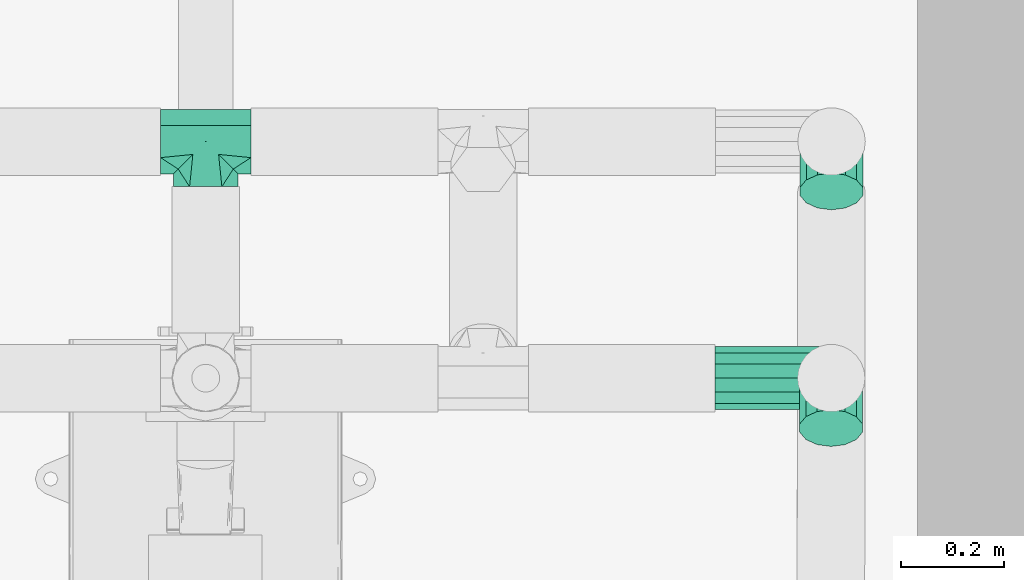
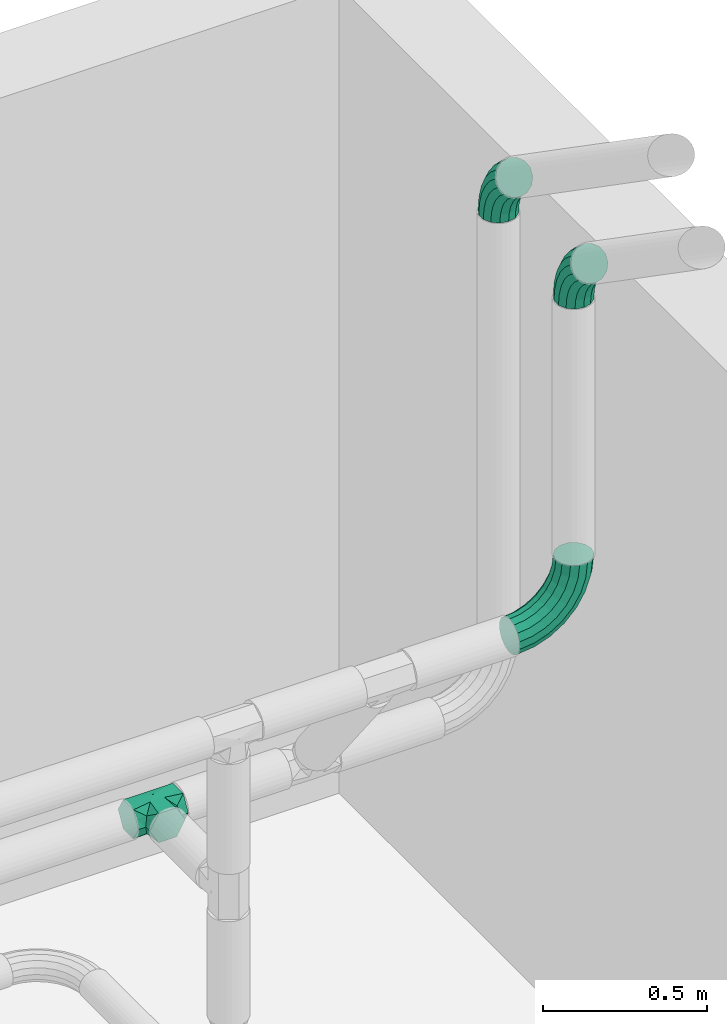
# One storey, part 10 of 12: 4 flow fittings.
"""IFC2X3 building model written with IfcOpenShell, lengths in millimetres."""

from ifc_helpers import new_model, entity, si_unit, converted_unit, direction, frame, origin, place, context, subcontext, project, spatial, faceted_brep, source, transform, mapped, material, type_object, type_shapes, element, save


model = new_model("IFC2X3")

# Units and contexts
model_context = context("Model", 3, precision=0.01, world=origin(), true_north=direction((6.123031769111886e-17, 1.0)))
body_context = subcontext(model_context, "Body", "Model", "MODEL_VIEW")
ifc_project = project(units=[si_unit("LENGTHUNIT", "METRE", prefix="MILLI"), converted_unit("PLANEANGLEUNIT", "DEGREE", entity("IfcPlaneAngleMeasure", 0.017453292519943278), si_unit("PLANEANGLEUNIT", "RADIAN"), dimensions=[0, 0, 0, 0, 0, 0, 0]), si_unit("AREAUNIT", "SQUARE_METRE")], contexts=[model_context])

# Site, building, storey
site_placement = place(None, frame((7776.576483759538, 118.3519876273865, 0.0)))
site = spatial("IfcSite", under=ifc_project, at=site_placement, Name="Default", CompositionType="ELEMENT")
building_placement = place(site_placement, origin())
building = spatial("IfcBuilding", under=site, at=building_placement, Name="Bygning (endres i Project Information)", CompositionType="ELEMENT")
storey_placement = place(building_placement, frame((0.0, 0.0, 11000.0)))
storey = spatial("IfcBuildingStorey", under=building, at=storey_placement, Name="Plan U2 - Arbeid", CompositionType="ELEMENT", Elevation=10999.999999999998)

# Flow fittings
ifc_material_1 = material(Name="DF_Material1")
pipe_fitting_type_1 = type_object("IfcPipeFittingType", Name="VA_prosess_rustfritt_vinklet_innsveising:VA_prosess_rustfritt_vinklet_innsveising", PredefinedType="NOTDEFINED", material=ifc_material_1)
shared_shape_1 = source(origin(), body_context, "Body", "Brep", [
    faceted_brep([(87.56401987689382, 50.78540715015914, -20.398523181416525), (87.56401987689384, 62.56250000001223, 0.0), (87.5640198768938, 50.7854066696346, 20.39852401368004), (87.56401987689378, 31.281250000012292, 54.1807143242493), (87.56401987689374, 0.0, 54.180714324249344), (87.56401987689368, -31.28124999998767, 54.180714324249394), (87.56401987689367, -46.92187499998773, 27.090357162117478), (87.56401987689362, -62.562499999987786, 0.0), (87.56401987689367, -46.92187499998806, -27.09035716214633), (87.56401987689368, -31.281249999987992, -54.18071432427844), (87.56401987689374, 0.0, -54.18071432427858), (87.56401987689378, 31.28125000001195, -54.18071432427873), (-87.56249999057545, 31.281250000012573, 54.1807143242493), (-87.56249999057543, 46.92187500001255, 27.090357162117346), (-87.56249999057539, 62.56250000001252, 0.0), (-87.56249999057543, 46.921875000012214, -27.09035716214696), (-87.56249999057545, 31.281250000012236, -54.18071432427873), (-87.56249999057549, 0.0, -54.18071432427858), (-87.56249999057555, -31.281249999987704, -54.18071432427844), (-87.56249999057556, -46.921874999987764, -27.09035716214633), (-87.5624999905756, -62.562499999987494, 0.0), (-87.56249999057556, -46.921874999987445, 27.090357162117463), (-87.56249999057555, -31.28124999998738, 54.180714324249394), (-87.56249999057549, 0.0, 54.180714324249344), (-62.56141407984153, -62.56249999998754, 0.0), (62.56358593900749, -62.56249999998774, 0.0), (-53.376592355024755, -53.3775188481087, -32.632911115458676), (53.37831310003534, -53.37738659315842, -32.633127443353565), (-24.96266408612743, -24.963097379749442, -57.36645514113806), (0.0, 0.0, -62.56250000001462), (24.96338614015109, -24.962952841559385, -57.366518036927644), (-24.962664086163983, -24.963097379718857, 57.36645514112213), (0.0, 0.0, 62.56249999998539), (53.37831310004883, -53.377386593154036, 32.633127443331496), (24.96338614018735, -24.962952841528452, 57.36651803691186), (-53.376592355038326, -53.3775188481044, 32.63291111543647), (0.0015198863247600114, -87.56358592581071, -54.18071432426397), (31.28276988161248, -87.56304296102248, -54.18071432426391), (46.92339487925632, -87.56277147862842, -27.090357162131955), (62.56401987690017, -87.5624999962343, 0.0), (46.923394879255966, -87.56277147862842, 27.09035716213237), (31.28276988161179, -87.56304296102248, 54.18071432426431), (0.00151988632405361, -87.56358592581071, 54.18071432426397), (-31.27973010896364, -87.56412889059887, 54.180714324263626), (-46.92035510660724, -87.56440037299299, 27.090357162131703), (-62.56098010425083, -87.56467185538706, 0.0), (-46.92035510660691, -87.56440037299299, -27.090357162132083), (-31.279730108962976, -87.56412889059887, -54.18071432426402)], [[[0, 1, 2, 3, 4, 5, 6, 7, 8, 9, 10, 11]], [[12, 13, 14, 15, 16, 17, 18, 19, 20, 21, 22, 23]], [[20, 19, 24]], [[25, 8, 7]], [[26, 19, 18]], [[11, 16, 15, 14, 1, 0]], [[25, 27, 8]], [[28, 17, 29]], [[24, 19, 26]], [[26, 18, 28]], [[29, 11, 10]], [[18, 17, 28]], [[29, 16, 11]], [[17, 16, 29]], [[29, 10, 30]], [[9, 27, 30]], [[30, 10, 9]], [[27, 9, 8]], [[3, 2, 1, 14, 13, 12]], [[31, 23, 22]], [[32, 23, 31]], [[3, 32, 4]], [[25, 6, 33]], [[12, 32, 3]], [[4, 34, 5]], [[34, 4, 32]], [[32, 12, 23]], [[21, 20, 24]], [[7, 6, 25]], [[24, 35, 21]], [[5, 33, 6]], [[5, 34, 33]], [[35, 22, 21]], [[31, 22, 35]], [[36, 37, 38, 39, 40, 41, 42, 43, 44, 45, 46, 47]], [[44, 43, 35]], [[24, 44, 35]], [[24, 45, 44]], [[31, 35, 43]], [[34, 32, 31]], [[40, 39, 25]], [[40, 25, 33]], [[33, 41, 40]], [[31, 43, 42]], [[33, 34, 41]], [[42, 41, 34]], [[31, 42, 34]], [[38, 37, 27]], [[25, 38, 27]], [[25, 39, 38]], [[30, 27, 37]], [[30, 37, 36]], [[28, 36, 47]], [[46, 45, 24]], [[30, 36, 28]], [[46, 24, 26]], [[26, 47, 46]], [[30, 28, 29]], [[26, 28, 47]]]),
])
type_shapes(pipe_fitting_type_1, [shared_shape_1])
flow_fitting_1_placement = place(storey_placement, frame((30594.01051661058, 33038.46487677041, 1180.6961148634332), z_axis=(0.0, 0.0, -1.0), x_axis=(-1.0, 0.0, 0.0)))
element("IfcFlowFitting", 1, at=flow_fitting_1_placement, inside=storey, type_object=pipe_fitting_type_1, material=ifc_material_1, Name="VA_prosess_rustfritt_vinklet_innsveising:VA_prosess_rustfritt_vinklet_innsveising", ObjectType="VA_prosess_rustfritt_vinklet_innsveising:VA_prosess_rustfritt_vinklet_innsveising", context=body_context, shape_type="MappedRepresentation", body=[
    mapped(shared_shape_1, transform((0.0, 0.0, 0.0), scale=1.0)),
])
ifc_material_2 = material(Name="SS 2343 Rustfritt stål, prosessrør, generisk")
pipe_fitting_type_2 = type_object("IfcPipeFittingType", Name="VA_prosess_rustfritt_bend_D+100:VA_prosess_rustfritt_bend_D+100", PredefinedType="NOTDEFINED", material=ifc_material_2)
shared_shape_2 = source(origin(), body_context, "Body", "Brep", [
    faceted_brep([(-62.68685002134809, -57.16495099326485, 0.0), (-63.873691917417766, -51.0903608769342, 27.117733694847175), (-117.81570300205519, -56.310554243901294, 27.117733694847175), (-117.81570300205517, -62.50000000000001, 0.0), (-67.19914901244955, -34.06973760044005, 48.86446765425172), (-117.81570300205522, -38.968112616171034, 48.86446765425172), (-72.00457374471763, -9.474224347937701, 60.93299451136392), (-117.81570300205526, -13.907558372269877, 60.93299451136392), (-77.33819281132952, 17.82473583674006, 60.93299451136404), (-117.81570300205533, 13.90755837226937, 60.93299451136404), (-82.1436175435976, 42.42024908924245, 48.86446765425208), (-117.81570300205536, 38.96811261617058, 48.86446765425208), (-85.46907463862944, 59.4408723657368, 27.117733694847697), (-117.81570300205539, 56.31055424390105, 27.117733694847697), (-86.65591653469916, 65.5154624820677, 0.0), (-117.81570300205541, 62.50000000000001, 0.0), (-85.46907463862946, 59.44087236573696, -27.117733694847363), (-117.81570300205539, 56.31055424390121, -27.117733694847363), (-82.14361754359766, 42.420249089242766, -48.86446765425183), (-117.81570300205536, 38.96811261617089, -48.86446765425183), (-77.33819281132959, 17.824735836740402, -60.932994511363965), (-117.81570300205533, 13.90755837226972, -60.932994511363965), (-72.00457374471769, -9.474224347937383, -60.932994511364), (-117.81570300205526, -13.907558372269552, -60.932994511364), (-67.1991490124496, -34.06973760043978, -48.864467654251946), (-117.81570300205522, -38.96811261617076, -48.864467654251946), (-63.873691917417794, -51.09036087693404, -27.11773369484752), (-117.81570300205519, -56.31055424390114, -27.11773369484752), (-9.604015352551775, -41.357805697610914, 0.0), (-11.933651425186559, -35.623519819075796, 27.117733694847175), (-18.461146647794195, -19.556407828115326, 48.86446765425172), (-27.893650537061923, 3.6612416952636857, 60.93299451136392), (-38.3629400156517, 29.430888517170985, 60.93299451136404), (-47.795443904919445, 52.648538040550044, 48.86446765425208), (-54.32293912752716, 68.71565003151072, 27.117733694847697), (-56.65257520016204, 74.44993591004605, 0.0), (-54.32293912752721, 68.71565003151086, -27.117733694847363), (-47.79544390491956, 52.64853804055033, -48.86446765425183), (-38.36294001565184, 29.430888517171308, -60.932994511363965), (-27.893650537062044, 3.6612416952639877, -60.932994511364), (-18.461146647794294, -19.55640782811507, -48.864467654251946), (-11.933651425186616, -35.62351981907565, -27.11773369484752), (39.46271735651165, -15.665220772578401, 0.0), (36.07674778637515, -10.484057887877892, 27.117733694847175), (26.58947187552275, 4.033237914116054, 48.86446765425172), (12.879960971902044, 25.011338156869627, 60.93299451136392), (-2.3364481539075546, 48.2952728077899, 60.93299451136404), (-16.04595905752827, 69.27337305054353, 48.86446765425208), (-25.53323496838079, 83.79066885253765, 27.117733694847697), (-28.91920453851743, 88.97183173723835, 0.0), (-25.533234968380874, 83.79066885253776, -27.117733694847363), (-16.04595905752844, 69.27337305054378, -48.86446765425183), (-2.3364481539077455, 48.29527280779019, -60.932994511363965), (12.879960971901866, 25.0113381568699, -60.932994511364), (26.589471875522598, 4.033237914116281, -48.864467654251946), (36.076747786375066, -10.484057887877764, -27.11773369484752), (82.69231559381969, 18.959265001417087, 0.0), (78.37567731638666, 23.39501440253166, 27.117733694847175), (66.28072563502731, 35.82370803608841, 48.86446765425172), (48.80301406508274, 53.783690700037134, 60.93299451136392), (29.4042177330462, 73.7177675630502, 60.93299451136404), (11.926506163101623, 91.67775022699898, 48.86446765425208), (-0.16844551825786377, 104.10644386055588, 27.117733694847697), (-4.485083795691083, 108.54219326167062, 0.0), (-0.16844551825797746, 104.106443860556, -27.117733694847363), (11.926506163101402, 91.6777502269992, -48.86446765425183), (29.404217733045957, 73.71776756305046, -60.932994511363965), (48.803014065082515, 53.78369070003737, -60.932994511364), (66.28072563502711, 35.82370803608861, -48.864467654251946), (78.37567731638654, 23.395014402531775, -27.11773369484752), (118.48038266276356, 61.230619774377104, 0.0), (113.39328073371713, 64.7563300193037, 27.117733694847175), (99.13953787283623, 74.6351506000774, 48.86446765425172), (78.54228266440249, 88.91045994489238, 60.93299451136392), (55.68105411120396, 104.75485796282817, 60.93299451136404), (35.0837989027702, 119.03016730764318, 48.86446765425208), (20.830056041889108, 128.908987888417, 27.117733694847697), (15.742954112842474, 132.43469813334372, 0.0), (20.83005604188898, 128.90898788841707, -27.117733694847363), (35.08379890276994, 119.03016730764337, -48.86446765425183), (55.68105411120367, 104.75485796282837, -60.932994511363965), (78.54228266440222, 88.91045994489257, -60.932994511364), (99.139537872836, 74.63515060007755, -48.864467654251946), (113.393280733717, 64.7563300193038, -27.11773369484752)], [[[0, 1, 2, 3]], [[1, 4, 5, 2]], [[4, 6, 7, 5]], [[6, 8, 9, 7]], [[8, 10, 11, 9]], [[10, 12, 13, 11]], [[12, 14, 15, 13]], [[14, 16, 17, 15]], [[16, 18, 19, 17]], [[18, 20, 21, 19]], [[20, 22, 23, 21]], [[22, 24, 25, 23]], [[24, 26, 27, 25]], [[26, 0, 3, 27]], [[28, 29, 1, 0]], [[29, 30, 4, 1]], [[30, 31, 6, 4]], [[31, 32, 8, 6]], [[32, 33, 10, 8]], [[33, 34, 12, 10]], [[34, 35, 14, 12]], [[35, 36, 16, 14]], [[36, 37, 18, 16]], [[37, 38, 20, 18]], [[38, 39, 22, 20]], [[39, 40, 24, 22]], [[40, 41, 26, 24]], [[41, 28, 0, 26]], [[42, 43, 29, 28]], [[43, 44, 30, 29]], [[44, 45, 31, 30]], [[45, 46, 32, 31]], [[46, 47, 33, 32]], [[47, 48, 34, 33]], [[48, 49, 35, 34]], [[49, 50, 36, 35]], [[50, 51, 37, 36]], [[51, 52, 38, 37]], [[52, 53, 39, 38]], [[53, 54, 40, 39]], [[54, 55, 41, 40]], [[55, 42, 28, 41]], [[56, 57, 43, 42]], [[57, 58, 44, 43]], [[58, 59, 45, 44]], [[59, 60, 46, 45]], [[60, 61, 47, 46]], [[61, 62, 48, 47]], [[62, 63, 49, 48]], [[63, 64, 50, 49]], [[64, 65, 51, 50]], [[65, 66, 52, 51]], [[66, 67, 53, 52]], [[67, 68, 54, 53]], [[68, 69, 55, 54]], [[69, 56, 42, 55]], [[70, 71, 57, 56]], [[71, 72, 58, 57]], [[72, 73, 59, 58]], [[73, 74, 60, 59]], [[74, 75, 61, 60]], [[75, 76, 62, 61]], [[76, 77, 63, 62]], [[77, 78, 64, 63]], [[78, 79, 65, 64]], [[79, 80, 66, 65]], [[80, 81, 67, 66]], [[81, 82, 68, 67]], [[82, 83, 69, 68]], [[83, 70, 56, 69]], [[3, 2, 5, 7, 9, 11, 13, 15, 17, 19, 21, 23, 25, 27]], [[83, 82, 81, 80, 79, 78, 77, 76, 75, 74, 73, 72, 71, 70]]]),
])
type_shapes(pipe_fitting_type_2, [shared_shape_2])
flow_fitting_2_placement = place(storey_placement, frame((31807.420406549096, 33038.49570253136, 3102.4481324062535), z_axis=(0.9999992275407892, -0.001242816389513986, 1.803460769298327e-05), x_axis=(-1.8014063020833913e-05, 1.6541930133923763e-05, 1.0)))
element("IfcFlowFitting", 2, at=flow_fitting_2_placement, inside=storey, type_object=pipe_fitting_type_2, material=ifc_material_2, Name="VA_prosess_rustfritt_bend_D+100:VA_prosess_rustfritt_bend_D+100", ObjectType="VA_prosess_rustfritt_bend_D+100:VA_prosess_rustfritt_bend_D+100", context=body_context, shape_type="MappedRepresentation", body=[
    mapped(shared_shape_2, transform((0.0, 0.0, 0.0), scale=1.0)),
])
pipe_fitting_type_3 = type_object("IfcPipeFittingType", Name="VA_prosess_rustfritt_bend_D+100:VA_prosess_rustfritt_bend_D+100", PredefinedType="NOTDEFINED", material=ifc_material_2)
shared_shape_3 = source(origin(), body_context, "Body", "Brep", [
    faceted_brep([(-62.6854109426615, -57.16513355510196, 0.0), (-63.87223272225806, -51.090539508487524, 27.117733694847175), (-117.81332951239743, -56.310554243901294, 27.117733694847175), (-117.81332951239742, -62.50000000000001, 0.0), (-67.19763345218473, -34.069905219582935, 48.86446765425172), (-117.81332951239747, -38.968112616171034, 48.86446765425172), (-72.00297673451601, -9.474376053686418, 60.93299451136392), (-117.8133295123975, -13.907558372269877, 60.93299451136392), (-77.33650539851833, 17.824601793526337, 60.93299451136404), (-117.81332951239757, 13.90755837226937, 60.93299451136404), (-82.1418486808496, 42.4201309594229, 48.86446765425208), (-117.8133295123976, 38.96811261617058, 48.86446765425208), (-85.46724941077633, 59.44076524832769, 27.117733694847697), (-117.81332951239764, 56.31055424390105, 27.117733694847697), (-86.65407119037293, 65.51535929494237, 0.0), (-117.81332951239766, 62.50000000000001, 0.0), (-85.46724941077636, 59.44076524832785, -27.117733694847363), (-117.81332951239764, 56.31055424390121, -27.117733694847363), (-82.14184868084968, 42.420130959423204, -48.86446765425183), (-117.8133295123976, 38.96811261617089, -48.86446765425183), (-77.3365053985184, 17.824601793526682, -60.932994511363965), (-117.81332951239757, 13.90755837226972, -60.932994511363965), (-72.00297673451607, -9.4743760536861, -60.932994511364), (-117.8133295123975, -13.907558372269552, -60.932994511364), (-67.19763345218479, -34.069905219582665, -48.864467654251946), (-117.81332951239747, -38.96811261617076, -48.864467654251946), (-63.87223272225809, -51.09053950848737, -27.11773369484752), (-117.81332951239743, -56.31055424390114, -27.11773369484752), (-9.603405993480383, -41.35852239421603, 0.0), (-11.93300408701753, -35.624221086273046, 27.117733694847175), (-18.46039289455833, -19.55706586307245, 48.86446765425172), (-27.89274300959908, 3.660646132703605, 60.93299451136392), (-38.361861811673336, 29.430362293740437, 60.93299451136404), (-47.794211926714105, 52.64807428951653, 48.86446765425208), (-54.32160073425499, 68.71522951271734, 27.117733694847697), (-56.65119882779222, 74.44953082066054, 0.0), (-54.32160073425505, 68.71522951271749, -27.117733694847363), (-47.794211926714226, 52.64807428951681, -48.86446765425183), (-38.36186181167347, 29.43036229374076, -60.932994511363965), (-27.8927430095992, 3.660646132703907, -60.932994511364), (-18.460392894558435, -19.557065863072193, -48.864467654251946), (-11.933004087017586, -35.624221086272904, -27.11773369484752), (39.462699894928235, -15.66678327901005, 0.0), (36.07678179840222, -10.485586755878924, 27.117733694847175), (26.589650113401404, 4.031803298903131, 48.86446765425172), (12.88034762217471, 25.010039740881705, 60.93299451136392), (-2.3358301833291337, 48.29412556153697, 60.93299451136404), (-16.045132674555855, 69.2723620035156, 48.86446765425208), (-25.532264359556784, 83.78975205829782, 27.117733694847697), (-28.918182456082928, 88.97094858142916, 0.0), (-25.53226435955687, 83.78975205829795, -27.117733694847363), (-16.045132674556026, 69.27236200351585, -48.86446765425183), (-2.3358301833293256, 48.294125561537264, -60.932994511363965), (12.880347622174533, 25.010039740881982, -60.932994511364), (26.589650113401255, 4.031803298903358, -48.864467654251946), (36.07678179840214, -10.485586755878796, -27.11773369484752), (82.69195978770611, 18.95660902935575, 0.0), (78.37538026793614, 23.392415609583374, 27.117733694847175), (66.28059322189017, 35.82126945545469, 48.86446765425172), (48.803119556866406, 53.781483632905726, 60.93299451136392), (29.404587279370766, 73.7158174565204, 60.93299451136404), (11.927113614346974, 91.67603163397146, 48.86446765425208), (-0.16767343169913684, 104.10488547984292, 27.117733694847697), (-4.484252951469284, 108.54069206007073, 0.0), (-0.16767343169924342, 104.10488547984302, -27.117733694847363), (11.927113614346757, 91.67603163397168, -48.86446765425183), (29.404587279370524, 73.71581745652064, -60.932994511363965), (48.80311955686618, 53.78148363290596, -60.932994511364), (66.28059322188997, 35.82126945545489, -48.864467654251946), (78.37538026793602, 23.392415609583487, -27.11773369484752), (118.48004444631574, 61.226707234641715, 0.0), (113.39300089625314, 64.75250171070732, 27.117733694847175), (99.13942160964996, 74.63155830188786, 48.86446765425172), (78.54240277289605, 88.90720869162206, 60.93299451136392), (55.681436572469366, 104.75198524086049, 60.93299451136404), (35.08441773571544, 119.02763563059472, 48.86446765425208), (20.830838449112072, 128.9066922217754, 27.117733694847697), (15.743794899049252, 132.4324866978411, 0.0), (20.830838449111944, 128.9066922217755, -27.117733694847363), (35.084417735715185, 119.02763563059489, -48.86446765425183), (55.68143657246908, 104.75198524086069, -60.932994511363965), (78.54240277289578, 88.90720869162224, -60.932994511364), (99.13942160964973, 74.63155830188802, -48.864467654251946), (113.39300089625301, 64.7525017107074, -27.11773369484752)], [[[0, 1, 2, 3]], [[1, 4, 5, 2]], [[4, 6, 7, 5]], [[6, 8, 9, 7]], [[8, 10, 11, 9]], [[10, 12, 13, 11]], [[12, 14, 15, 13]], [[14, 16, 17, 15]], [[16, 18, 19, 17]], [[18, 20, 21, 19]], [[20, 22, 23, 21]], [[22, 24, 25, 23]], [[24, 26, 27, 25]], [[26, 0, 3, 27]], [[28, 29, 1, 0]], [[29, 30, 4, 1]], [[30, 31, 6, 4]], [[31, 32, 8, 6]], [[32, 33, 10, 8]], [[33, 34, 12, 10]], [[34, 35, 14, 12]], [[35, 36, 16, 14]], [[36, 37, 18, 16]], [[37, 38, 20, 18]], [[38, 39, 22, 20]], [[39, 40, 24, 22]], [[40, 41, 26, 24]], [[41, 28, 0, 26]], [[42, 43, 29, 28]], [[43, 44, 30, 29]], [[44, 45, 31, 30]], [[45, 46, 32, 31]], [[46, 47, 33, 32]], [[47, 48, 34, 33]], [[48, 49, 35, 34]], [[49, 50, 36, 35]], [[50, 51, 37, 36]], [[51, 52, 38, 37]], [[52, 53, 39, 38]], [[53, 54, 40, 39]], [[54, 55, 41, 40]], [[55, 42, 28, 41]], [[56, 57, 43, 42]], [[57, 58, 44, 43]], [[58, 59, 45, 44]], [[59, 60, 46, 45]], [[60, 61, 47, 46]], [[61, 62, 48, 47]], [[62, 63, 49, 48]], [[63, 64, 50, 49]], [[64, 65, 51, 50]], [[65, 66, 52, 51]], [[66, 67, 53, 52]], [[67, 68, 54, 53]], [[68, 69, 55, 54]], [[69, 56, 42, 55]], [[70, 71, 57, 56]], [[71, 72, 58, 57]], [[72, 73, 59, 58]], [[73, 74, 60, 59]], [[74, 75, 61, 60]], [[75, 76, 62, 61]], [[76, 77, 63, 62]], [[77, 78, 64, 63]], [[78, 79, 65, 64]], [[79, 80, 66, 65]], [[80, 81, 67, 66]], [[81, 82, 68, 67]], [[82, 83, 69, 68]], [[83, 70, 56, 69]], [[3, 2, 5, 7, 9, 11, 13, 15, 17, 19, 21, 23, 25, 27]], [[83, 82, 81, 80, 79, 78, 77, 76, 75, 74, 73, 72, 71, 70]]]),
])
type_shapes(pipe_fitting_type_3, [shared_shape_3])
flow_fitting_3_placement = place(storey_placement, frame((31806.78093301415, 32579.648882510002, 3061.195979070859), z_axis=(0.9999992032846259, -0.0012615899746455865, 4.267141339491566e-05), x_axis=(-4.267144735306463e-05, 0.0, 1.0)))
element("IfcFlowFitting", 3, at=flow_fitting_3_placement, inside=storey, type_object=pipe_fitting_type_3, material=ifc_material_2, Name="VA_prosess_rustfritt_bend_D+100:VA_prosess_rustfritt_bend_D+100", ObjectType="VA_prosess_rustfritt_bend_D+100:VA_prosess_rustfritt_bend_D+100", context=body_context, shape_type="MappedRepresentation", body=[
    mapped(shared_shape_3, transform((0.0, 0.0, 0.0), scale=1.0)),
])
pipe_fitting_type_4 = type_object("IfcPipeFittingType", Name="VA_prosess_rustfritt_bend_D+100:VA_prosess_rustfritt_bend_D+100", PredefinedType="NOTDEFINED", material=ifc_material_2)
shared_shape_4 = source(origin(), body_context, "Body", "Brep", [
    faceted_brep([(-161.03312413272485, -55.291384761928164, 0.0), (-162.41044216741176, -49.257129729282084, 27.117733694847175), (-225.00960128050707, -56.310554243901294, 27.117733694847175), (-225.00960128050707, -62.50000000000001, 0.0), (-166.26960154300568, -32.34952284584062, 48.86446765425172), (-225.00960128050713, -38.968112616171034, 48.86446765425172), (-171.84624841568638, -7.917323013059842, 60.93299451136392), (-225.00960128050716, -13.907558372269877, 60.93299451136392), (-178.03585947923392, 19.200372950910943, 60.93299451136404), (-225.0096012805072, 13.90755837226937, 60.93299451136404), (-183.61250635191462, 43.63257278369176, 48.86446765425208), (-225.00960128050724, 38.96811261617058, 48.86446765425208), (-187.47166572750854, 60.54017966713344, 27.117733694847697), (-225.00960128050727, 56.31055424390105, 27.117733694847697), (-188.8489837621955, 66.57443469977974, 0.0), (-225.00960128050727, 62.50000000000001, 0.0), (-187.47166572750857, 60.54017966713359, -27.117733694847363), (-225.00960128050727, 56.31055424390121, -27.117733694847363), (-183.61250635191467, 43.63257278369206, -48.86446765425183), (-225.00960128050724, 38.96811261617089, -48.86446765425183), (-178.03585947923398, 19.200372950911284, -60.932994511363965), (-225.0096012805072, 13.90755837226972, -60.932994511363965), (-171.84624841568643, -7.917323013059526, -60.932994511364), (-225.00960128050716, -13.907558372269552, -60.932994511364), (-166.26960154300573, -32.34952284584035, -48.864467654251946), (-225.00960128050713, -38.96811261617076, -48.864467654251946), (-162.41044216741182, -49.25712972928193, -27.11773369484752), (-225.00960128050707, -56.31055424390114, -27.11773369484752), (-100.26486825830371, -34.027028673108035, 0.0), (-102.95043611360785, -28.450563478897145, 27.117733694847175), (-110.47523002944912, -12.825655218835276, 48.86446765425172), (-121.34887228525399, 9.752991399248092, 60.93299451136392), (-133.41770467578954, 34.81339850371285, 60.93299451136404), (-144.29134693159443, 57.39204512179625, 48.86446765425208), (-151.81614084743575, 73.01695338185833, 27.117733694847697), (-154.50170870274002, 78.59341857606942, 0.0), (-151.81614084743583, 73.01695338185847, -27.117733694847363), (-144.29134693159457, 57.392045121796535, -48.86446765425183), (-133.41770467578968, 34.81339850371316, -60.932994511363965), (-121.34887228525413, 9.752991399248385, -60.932994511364), (-110.47523002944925, -12.825655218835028, -48.864467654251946), (-102.95043611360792, -28.450563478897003, -27.11773369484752), (-45.75217261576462, 0.22672697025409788, 0.0), (-49.611317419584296, 5.06575994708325, 27.117733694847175), (-60.42440087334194, 18.62442904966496, 48.86446765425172), (-76.04975918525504, 38.21727357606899, 60.93299451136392), (-93.3925985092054, 59.963690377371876, 60.93299451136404), (-109.01795682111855, 79.55653490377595, 48.86446765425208), (-119.83104027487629, 93.11520400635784, 27.117733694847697), (-123.69018507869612, 97.95423698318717, 0.0), (-119.8310402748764, 93.11520400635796, -27.117733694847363), (-109.01795682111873, 79.5565349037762, -48.86446765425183), (-93.39259850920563, 59.96369037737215, -60.932994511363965), (-76.04975918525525, 38.217273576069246, -60.932994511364), (-60.424400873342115, 18.624429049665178, -48.864467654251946), (-49.61131741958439, 5.065759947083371, -27.11773369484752), (-0.22867928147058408, 45.75216289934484, 0.0), (-5.067876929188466, 49.61110121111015, 27.117733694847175), (-18.62700742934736, 60.42360608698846, 48.86446765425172), (-38.220518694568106, 76.04812832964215, 60.93299451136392), (-59.96767552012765, 93.3900396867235, 60.93299451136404), (-79.56118678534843, 109.01456192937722, 48.86446765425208), (-93.12031728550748, 119.82706680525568, 27.117733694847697), (-97.95951493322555, 123.68600511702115, 0.0), (-93.1203172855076, 119.82706680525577, -27.117733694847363), (-79.56118678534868, 109.01456192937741, -48.86446765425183), (-59.967675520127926, 93.39003968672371, -60.932994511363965), (-38.22051869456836, 76.04812832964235, -60.932994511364), (-18.627007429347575, 60.42360608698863, -48.864467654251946), (-5.067876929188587, 49.61110121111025, -27.11773369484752), (34.02275019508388, 100.26632014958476, 0.0), (28.44617040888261, 102.95165004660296, 27.117733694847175), (12.820941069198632, 110.47577721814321, 48.86446765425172), (-9.758169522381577, 121.34845600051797, 60.93299451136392), (-34.81909159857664, 133.41621901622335, 60.93299451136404), (-57.398202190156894, 144.28889779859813, 48.86446765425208), (-73.02343152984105, 151.8130249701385, 27.117733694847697), (-78.60001131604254, 154.4983548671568, 0.0), (-73.02343152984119, 151.81302497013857, -27.117733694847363), (-57.39820219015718, 144.28889779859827, -48.86446765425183), (-34.819091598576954, 133.4162190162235, -60.932994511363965), (-9.75816952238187, 121.34845600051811, -60.932994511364), (12.820941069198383, 110.47577721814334, -48.864467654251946), (28.446170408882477, 102.95165004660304, -27.11773369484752), (55.284513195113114, 161.0354833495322, 0.0), (49.250199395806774, 162.41254389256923, 27.117733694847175), (32.34242785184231, 166.2709817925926, 48.86446765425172), (7.90999007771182, 171.84658610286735, 60.93299451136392), (-19.20796998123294, 178.03504000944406, 60.93299451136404), (-43.64040775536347, 183.6106443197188, 48.86446765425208), (-60.54817929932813, 187.46908221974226, 27.117733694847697), (-66.58249309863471, 188.84614276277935, 0.0), (-60.54817929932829, 187.4690822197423, -27.117733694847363), (-43.640407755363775, 183.6106443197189, -48.86446765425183), (-19.20796998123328, 178.03504000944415, -60.932994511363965), (7.909990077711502, 171.84658610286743, -60.932994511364), (32.34242785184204, 166.27098179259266, -48.864467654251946), (49.25019939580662, 162.41254389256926, -27.11773369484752), (62.4903984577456, 225.01226804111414, 0.0), (56.300952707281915, 225.01200392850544, 27.117733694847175), (38.958511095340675, 225.01126390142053, 48.86446765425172), (13.8979568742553, 225.01019453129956, 60.93299451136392), (-13.917159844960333, 225.00900762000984, 60.93299451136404), (-38.977714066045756, 225.00793824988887, 48.86446765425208), (-56.32015567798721, 225.007198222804, 27.117733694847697), (-62.509601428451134, 225.0069341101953, 0.0), (-56.320155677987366, 225.007198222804, -27.117733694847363), (-38.97771406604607, 225.00793824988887, -48.86446765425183), (-13.917159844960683, 225.00900762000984, -60.932994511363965), (13.897956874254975, 225.01019453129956, -60.932994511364), (38.9585110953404, 225.01126390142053, -48.864467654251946), (56.30095270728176, 225.01200392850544, -27.11773369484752)], [[[0, 1, 2, 3]], [[1, 4, 5, 2]], [[4, 6, 7, 5]], [[6, 8, 9, 7]], [[8, 10, 11, 9]], [[10, 12, 13, 11]], [[12, 14, 15, 13]], [[14, 16, 17, 15]], [[16, 18, 19, 17]], [[18, 20, 21, 19]], [[20, 22, 23, 21]], [[22, 24, 25, 23]], [[24, 26, 27, 25]], [[26, 0, 3, 27]], [[28, 29, 1, 0]], [[29, 30, 4, 1]], [[30, 31, 6, 4]], [[31, 32, 8, 6]], [[32, 33, 10, 8]], [[33, 34, 12, 10]], [[34, 35, 14, 12]], [[35, 36, 16, 14]], [[36, 37, 18, 16]], [[37, 38, 20, 18]], [[38, 39, 22, 20]], [[39, 40, 24, 22]], [[40, 41, 26, 24]], [[41, 28, 0, 26]], [[42, 43, 29, 28]], [[43, 44, 30, 29]], [[44, 45, 31, 30]], [[45, 46, 32, 31]], [[46, 47, 33, 32]], [[47, 48, 34, 33]], [[48, 49, 35, 34]], [[49, 50, 36, 35]], [[50, 51, 37, 36]], [[51, 52, 38, 37]], [[52, 53, 39, 38]], [[53, 54, 40, 39]], [[54, 55, 41, 40]], [[55, 42, 28, 41]], [[56, 57, 43, 42]], [[57, 58, 44, 43]], [[58, 59, 45, 44]], [[59, 60, 46, 45]], [[60, 61, 47, 46]], [[61, 62, 48, 47]], [[62, 63, 49, 48]], [[63, 64, 50, 49]], [[64, 65, 51, 50]], [[65, 66, 52, 51]], [[66, 67, 53, 52]], [[67, 68, 54, 53]], [[68, 69, 55, 54]], [[69, 56, 42, 55]], [[70, 71, 57, 56]], [[71, 72, 58, 57]], [[72, 73, 59, 58]], [[73, 74, 60, 59]], [[74, 75, 61, 60]], [[75, 76, 62, 61]], [[76, 77, 63, 62]], [[77, 78, 64, 63]], [[78, 79, 65, 64]], [[79, 80, 66, 65]], [[80, 81, 67, 66]], [[81, 82, 68, 67]], [[82, 83, 69, 68]], [[83, 70, 56, 69]], [[84, 85, 71, 70]], [[85, 86, 72, 71]], [[86, 87, 73, 72]], [[87, 88, 74, 73]], [[88, 89, 75, 74]], [[89, 90, 76, 75]], [[90, 91, 77, 76]], [[91, 92, 78, 77]], [[92, 93, 79, 78]], [[93, 94, 80, 79]], [[94, 95, 81, 80]], [[95, 96, 82, 81]], [[96, 97, 83, 82]], [[97, 84, 70, 83]], [[98, 99, 85, 84]], [[99, 100, 86, 85]], [[100, 101, 87, 86]], [[101, 102, 88, 87]], [[102, 103, 89, 88]], [[103, 104, 90, 89]], [[104, 105, 91, 90]], [[105, 106, 92, 91]], [[106, 107, 93, 92]], [[107, 108, 94, 93]], [[108, 109, 95, 94]], [[109, 110, 96, 95]], [[110, 111, 97, 96]], [[111, 98, 84, 97]], [[3, 2, 5, 7, 9, 11, 13, 15, 17, 19, 21, 23, 25, 27]], [[111, 110, 109, 108, 107, 106, 105, 104, 103, 102, 101, 100, 99, 98]]]),
])
type_shapes(pipe_fitting_type_4, [shared_shape_4])
flow_fitting_4_placement = place(storey_placement, frame((31806.83626215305, 32579.648882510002, 1764.5645713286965), z_axis=(-1.840903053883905e-06, 1.0, 0.0), x_axis=(4.267144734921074e-05, 0.0, -1.0)))
element("IfcFlowFitting", 4, at=flow_fitting_4_placement, inside=storey, type_object=pipe_fitting_type_4, material=ifc_material_2, Name="VA_prosess_rustfritt_bend_D+100:VA_prosess_rustfritt_bend_D+100", ObjectType="VA_prosess_rustfritt_bend_D+100:VA_prosess_rustfritt_bend_D+100", context=body_context, shape_type="MappedRepresentation", body=[
    mapped(shared_shape_4, transform((0.0, 0.0, 0.0), scale=1.0)),
])

save(model, "model.ifc")
